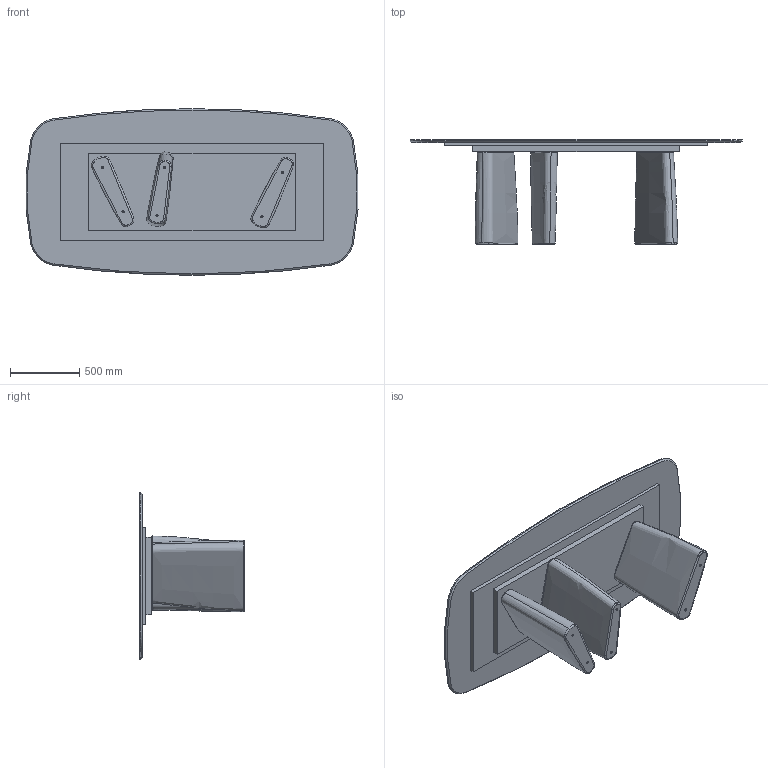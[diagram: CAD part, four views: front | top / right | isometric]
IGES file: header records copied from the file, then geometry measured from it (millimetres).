
Start section: SolidWorks IGES file using analytic representation for surfaces
Global section: file name: Y:\eforma\TECNICO\SOLIDWORKS\E-FORMA\1-TAVOLI\ALBERT\08 modelli 3D web\marmo 240x120 sag.IGS; native system: SolidWorks 2022; preprocessor: SolidWorks 2022; author: eforma.tech; date: 250414.164357; units: millimetre
Bounding box: 2391.62 x 755 x 1200 mm (x, y, z)
Volume: 238431488.9 mm3; surface area: 12710558.9 mm2
Topology: 6 solids, 6 shells, 164 faces, 400 edges, 260 vertices
Faces by surface type: revolution 78, bspline 54, plane 32
